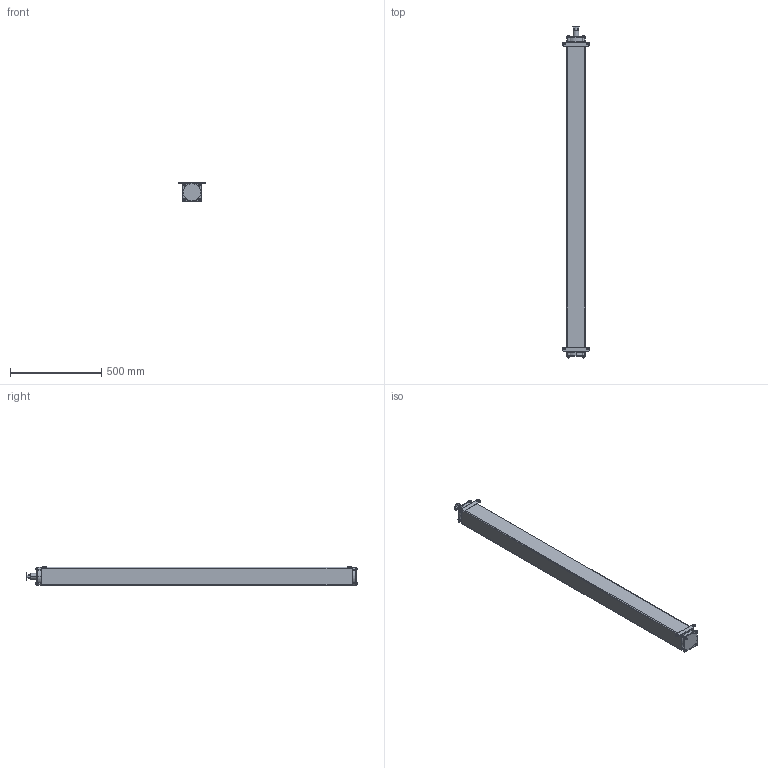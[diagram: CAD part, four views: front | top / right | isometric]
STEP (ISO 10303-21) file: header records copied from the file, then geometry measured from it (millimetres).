
FILE_DESCRIPTION((''),'2;1');
FILE_NAME('EFB-EX_ASM','2021-08-19T10:39:52',('18720616900'),(''),'CREO PARAMETRIC BY PTC INC, 2019010','CREO PARAMETRIC BY PTC INC, 2019010','');
FILE_SCHEMA(('CONFIG_CONTROL_DESIGN'));
Length unit declared in the file: millimetre
Products named in the file (6): EFB-EX-115; M6-50-0001; M6-1--00; M6-1-00; 0001_ASM; EFB-EX_ASM
Assembly tree (12 placements, depth 3):
  EFB-EX_ASM
    EFB-EX-115
    0001_ASM  x8
      M6-50-0001
      M6-1--00
      M6-1-00
Bounding box: 150 x 1819.5 x 104 mm (x, y, z)
Volume: 2051868.7 mm3; surface area: 1342235.6 mm2
Topology: 25 solids, 33 shells, 1247 faces, 3234 edges, 2074 vertices
Faces by surface type: cone 488, plane 265, bspline 264, cylinder 180, torus 50
Entity records: 19589 total; most frequent: CARTESIAN_POINT 10835, ORIENTED_EDGE 1802, DIRECTION 1738, EDGE_CURVE 917, AXIS2_PLACEMENT_3D 653, VERTEX_POINT 597, VECTOR 432, LINE 432
